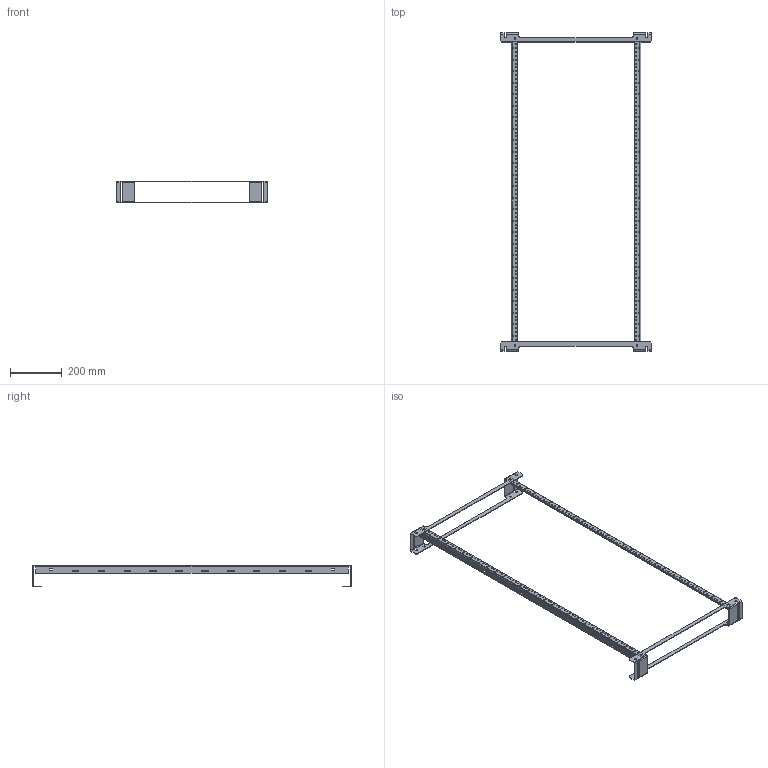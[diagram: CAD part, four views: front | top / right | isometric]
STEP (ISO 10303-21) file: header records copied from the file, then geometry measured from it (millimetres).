
FILE_DESCRIPTION (( 'STEP AP203' ), '1' );
FILE_NAME ('ptra48t.STEP', '2013-07-03T14:48:53', ( 'User' ), ( 'Pentair Inc' ), 'SwSTEP 2.0', 'SolidWorks 2010', '' );
FILE_SCHEMA (( 'CONFIG_CONTROL_DESIGN' ));
Length unit declared in the file: inch
Products named in the file (3): ptra48t; 89072125_87931339; 89060606_89060606
Assembly tree (4 placements, depth 2):
  ptra48t
    89060606_89060606  x2
    89072125_87931339  x2
Bounding box: 585 x 1229.51 x 85 mm (x, y, z)
Volume: 443427.6 mm3; surface area: 398014 mm2
Topology: 4 solids, 4 shells, 744 faces, 2132 edges, 1384 vertices
Faces by surface type: cylinder 512, plane 232
Entity records: 13209 total; most frequent: DIRECTION 2336, CARTESIAN_POINT 2137, ORIENTED_EDGE 2132, EDGE_CURVE 1066, AXIS2_PLACEMENT_3D 891, VERTEX_POINT 692, EDGE_LOOP 616, VECTOR 554
